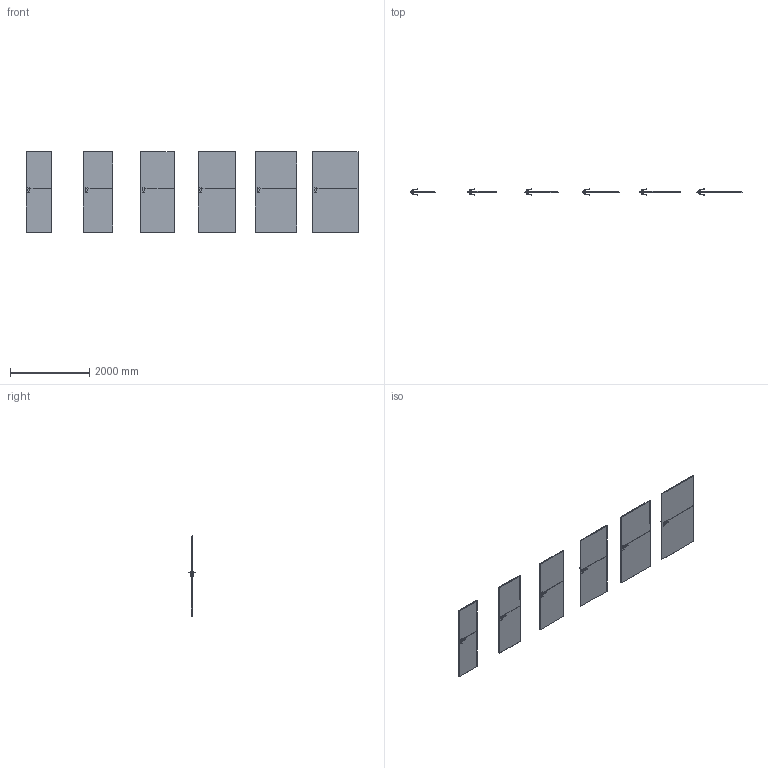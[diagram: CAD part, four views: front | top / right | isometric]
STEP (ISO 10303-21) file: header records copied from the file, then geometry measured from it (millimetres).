
FILE_DESCRIPTION(/* description */ (''),/* implementation_level */ '2;1');
FILE_NAME(/* name */ '049684_A_2-Skrzydło DESIRE model 2_ polska norma _PN__ przylgowe..stp',/* time_stamp */ '2024-02-20T14:34:57+01:00',/* author */ (''),/* organization */ (''),/* preprocessor_version */ 'ST-DEVELOPER v16',/* originating_system */ 'SIEMENS PLM Software NX 11.0',/* authorisation */ '');
FILE_SCHEMA (('AUTOMOTIVE_DESIGN { 1 0 10303 214 3 1 1 1 }'));
Length unit declared in the file: millimetre
Products named in the file (1): bkni63CC6E915guk
Bounding box: 8394 x 153.27 x 2030 mm (x, y, z)
Volume: 418520083.6 mm3; surface area: 23480109.8 mm2
Topology: 30 solids, 30 shells, 1200 faces, 2844 edges, 1584 vertices
Faces by surface type: plane 492, cylinder 312, bspline 204, sphere 168, cone 12, torus 12
Entity records: 39904 total; most frequent: CARTESIAN_POINT 14065, ORIENTED_EDGE 5352, DIRECTION 5174, EDGE_CURVE 2676, AXIS2_PLACEMENT_3D 1861, VERTEX_POINT 1584, LINE 1452, VECTOR 1452
